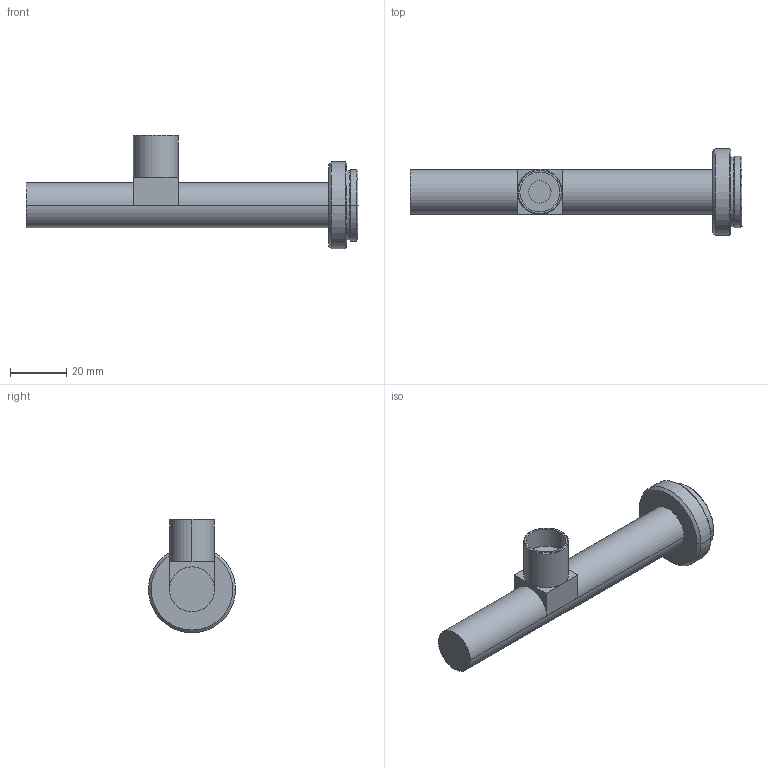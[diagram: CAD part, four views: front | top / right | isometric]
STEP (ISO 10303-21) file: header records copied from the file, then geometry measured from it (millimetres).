
FILE_DESCRIPTION (( 'STEP AP203' ), '1' );
FILE_NAME ('VS-TC6-110CO-LD.STEP', '2018-11-21T07:22:15', ( '' ), ( '' ), 'SwSTEP 2.0', 'SolidWorks 2018', '' );
FILE_SCHEMA (( 'CONFIG_CONTROL_DESIGN' ));
Length unit declared in the file: millimetre
Products named in the file (1): VS-TC6-110CO-LD
Bounding box: 118.2 x 31 x 40.5 mm (x, y, z)
Volume: 32492.5 mm3; surface area: 10532.5 mm2
Topology: 3 solids, 3 shells, 37 faces, 72 edges, 44 vertices
Faces by surface type: cylinder 14, plane 13, cone 10
Entity records: 1023 total; most frequent: DIRECTION 184, CARTESIAN_POINT 154, ORIENTED_EDGE 144, AXIS2_PLACEMENT_3D 74, EDGE_CURVE 72, VERTEX_POINT 44, EDGE_LOOP 42, FACE_OUTER_BOUND 37
